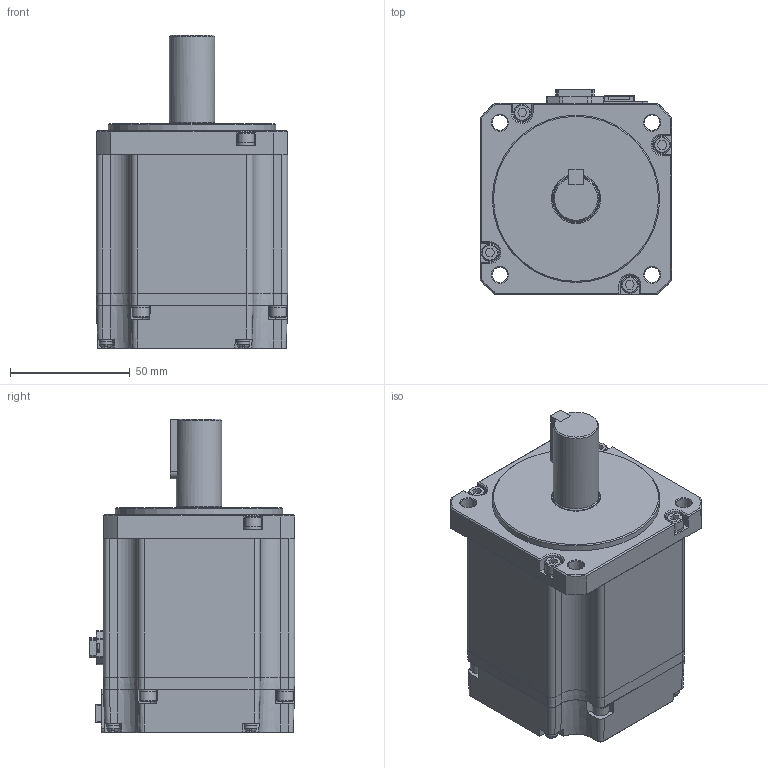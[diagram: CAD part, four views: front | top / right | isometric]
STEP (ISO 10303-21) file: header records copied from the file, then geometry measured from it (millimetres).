
FILE_DESCRIPTION (( 'STEP AP214' ), '1' );
FILE_NAME ('EM08GA001G03_Out Line(APM-EC08AM3K).STEP', '2022-11-04T03:11:17', ( '' ), ( '' ), 'SwSTEP 2.0', 'SolidWorks 2021', '' );
FILE_SCHEMA (( 'AUTOMOTIVE_DESIGN' ));
Length unit declared in the file: millimetre
Products named in the file (1): EM08GA001G03_Out Line(APM-EC08AM3K)
Bounding box: 80 x 85.9 x 131.2 mm (x, y, z)
Volume: 536574.3 mm3; surface area: 89431.3 mm2
Topology: 34 solids, 34 shells, 1438 faces, 3568 edges, 2268 vertices
Faces by surface type: plane 1039, cylinder 209, cone 124, torus 31, bspline 21, sphere 14
Full cylindrical faces by diameter (mm): 1.589 x1, 1.6 x9, 2 x2, 2.1 x2, 2.5 x4, 3 x8, 3.3 x8, 4 x12, 4.5 x8, 5.4 x8, 7 x8, 7.2 x8, 19 x1, 19.8 x1, 20.6 x1, 70 x1
Entity records: 58318 total; most frequent: CARTESIAN_POINT 8892, ORIENTED_EDGE 6772, DIRECTION 6549, EDGE_CURVE 3386, VECTOR 2515, LINE 2515, VERTEX_POINT 2229, AXIS2_PLACEMENT_3D 2017
